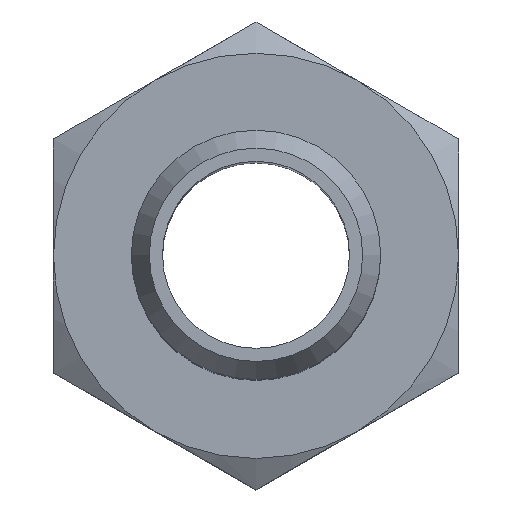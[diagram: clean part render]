
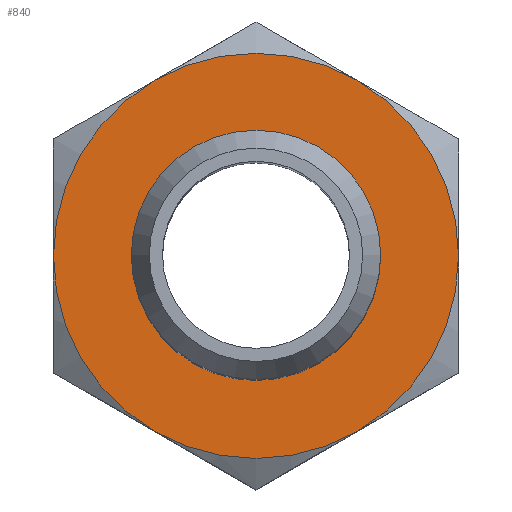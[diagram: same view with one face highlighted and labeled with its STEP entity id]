
A CAD part, top view. The second image highlights one B-rep face of the part: STEP entity #840.
In plain terms, the highlighted planar face has unit normal (0, 0, 1).
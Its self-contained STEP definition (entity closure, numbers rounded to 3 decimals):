
#840=ADVANCED_FACE('', (#850,#860), #870, .T.);
#2980=AXIS2_PLACEMENT_3D('Ax2Pl3d', #2990, #3000, #3010);
#3060=AXIS2_PLACEMENT_3D('Ax2Pl3d', #3070, #3080, #3090);
#3140=AXIS2_PLACEMENT_3D('Ax2Pl3d', #3150, #3160, #3170);
#3220=AXIS2_PLACEMENT_3D('Ax2Pl3d', #3230, #3240, #3250);
#3300=AXIS2_PLACEMENT_3D('Ax2Pl3d', #3310, #3320, #3330);
#3380=AXIS2_PLACEMENT_3D('Ax2Pl3d', #3390, #3400, #3410);
#3420=AXIS2_PLACEMENT_3D('Ax2Pl3d', #3430, #3440, #3450);
#3460=AXIS2_PLACEMENT_3D('Ax2Pl3d', #3470, #3480, #3490);
#6230=CARTESIAN_POINT('', (151.527,5.629,44.061));
#6410=CARTESIAN_POINT('', (154.777,0.,44.061));
#6420=CARTESIAN_POINT('', (145.027,5.629,44.061));
#6520=CARTESIAN_POINT('', (141.777,0.,44.061));
#6620=CARTESIAN_POINT('', (151.527,-5.629,44.061));
#6650=CARTESIAN_POINT('', (145.027,-5.629,44.061));
#2990=CARTESIAN_POINT('HicPkt', (148.277,0.,44.062));
#3070=CARTESIAN_POINT('HicPkt', (148.277,0.,44.062));
#3150=CARTESIAN_POINT('HicPkt', (148.277,0.,44.062));
#3230=CARTESIAN_POINT('HicPkt', (148.277,0.,44.062));
#3310=CARTESIAN_POINT('HicPkt', (148.277,0.,44.062));
#3390=CARTESIAN_POINT('HicPkt', (148.277,0.,44.062));
#3430=CARTESIAN_POINT('HicPkt', (154.777,0.,44.062));
#3470=CARTESIAN_POINT('HicPkt', (148.277,0.,44.062));
#6660=CARTESIAN_POINT('', (148.277,4.,44.062));
#6990=CIRCLE('Circle', #2980, 6.5);
#7000=CIRCLE('Circle', #3060, 6.5);
#7010=CIRCLE('Circle', #3140, 6.5);
#7020=CIRCLE('Circle', #3220, 6.5);
#7030=CIRCLE('Circle', #3300, 6.5);
#7040=CIRCLE('Circle', #3380, 6.5);
#7050=CIRCLE('Circle', #3460, 4.);
#3000=DIRECTION('Axis', (0.,0.,-1.));
#3010=DIRECTION('RefDirection', (-1.,-0.,0.));
#3080=DIRECTION('Axis', (0.,0.,-1.));
#3090=DIRECTION('RefDirection', (-1.,-0.,0.));
#3160=DIRECTION('Axis', (0.,0.,-1.));
#3170=DIRECTION('RefDirection', (-1.,-0.,0.));
#3240=DIRECTION('Axis', (0.,0.,-1.));
#3250=DIRECTION('RefDirection', (-1.,-0.,0.));
#3320=DIRECTION('Axis', (0.,0.,-1.));
#3330=DIRECTION('RefDirection', (-1.,-0.,0.));
#3400=DIRECTION('Axis', (0.,0.,-1.));
#3410=DIRECTION('RefDirection', (-1.,-0.,0.));
#3440=DIRECTION('Axis', (0.,0.,1.));
#3450=DIRECTION('RefDirection', (1.,0.,-0.));
#3480=DIRECTION('Axis', (0.,0.,1.));
#3490=DIRECTION('RefDirection', (1.,0.,-0.));
#10500=EDGE_CURVE('', #10040, #9710, #6990, .T.);
#10510=EDGE_CURVE('', #9710, #10010, #7000, .T.);
#10520=EDGE_CURVE('', #10010, #10410, #7010, .T.);
#10530=EDGE_CURVE('', #10410, #10480, #7020, .T.);
#10540=EDGE_CURVE('', #10480, #10210, #7030, .T.);
#10550=EDGE_CURVE('', #10210, #10040, #7040, .T.);
#10560=EDGE_CURVE('', #10570, #10570, #7050, .T.);
#12150=EDGE_LOOP('Edge_loop', (#12160,#12170,#12180,#12190,#12200,
#12210));
#12220=EDGE_LOOP('Edge_loop', (#12230));
#860=FACE_BOUND('', #12220, .T.);
#850=FACE_OUTER_BOUND('Face_outer_bound', #12150, .T.);
#12160=ORIENTED_EDGE('', *, *, #10520, .F.);
#12170=ORIENTED_EDGE('', *, *, #10510, .F.);
#12180=ORIENTED_EDGE('', *, *, #10500, .F.);
#12190=ORIENTED_EDGE('', *, *, #10550, .F.);
#12200=ORIENTED_EDGE('', *, *, #10540, .F.);
#12210=ORIENTED_EDGE('', *, *, #10530, .F.);
#12230=ORIENTED_EDGE('', *, *, #10560, .F.);
#870=PLANE('Plane', #3420);
#9710=VERTEX_POINT('', #6230);
#10010=VERTEX_POINT('', #6410);
#10040=VERTEX_POINT('', #6420);
#10210=VERTEX_POINT('', #6520);
#10410=VERTEX_POINT('', #6620);
#10480=VERTEX_POINT('', #6650);
#10570=VERTEX_POINT('', #6660);
